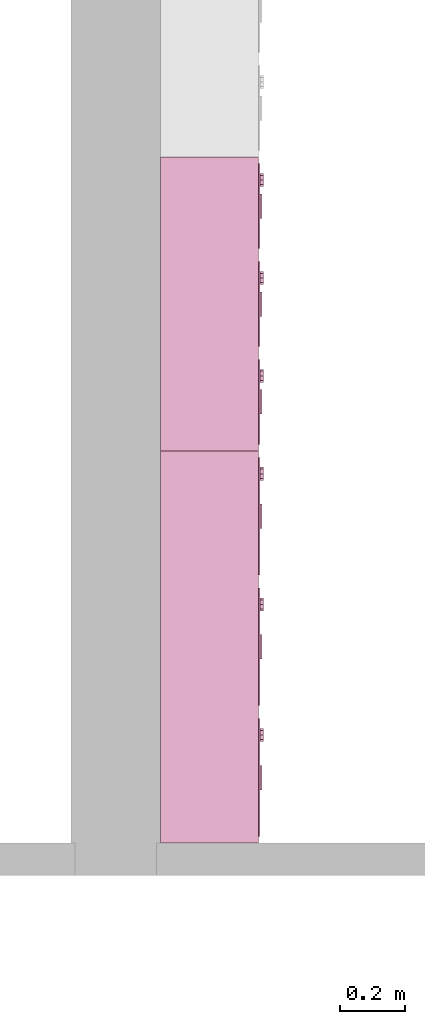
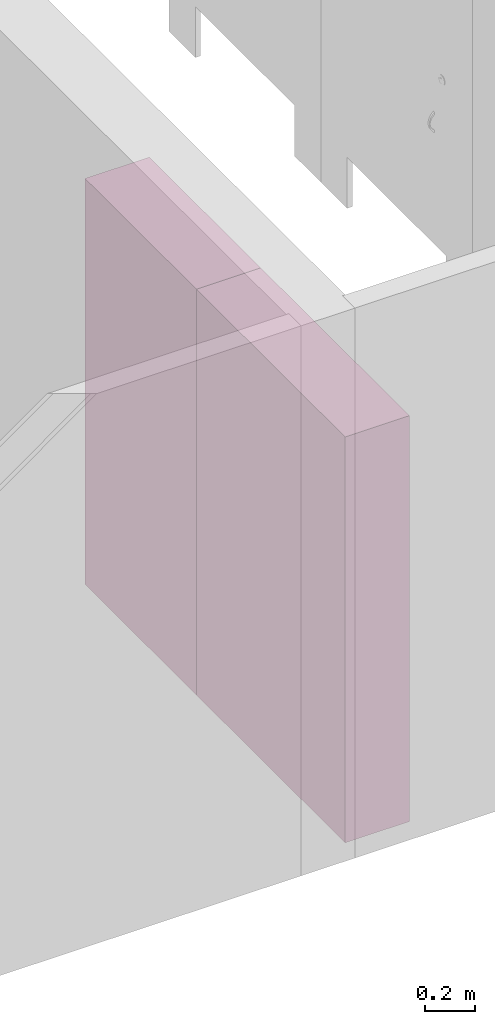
# One storey, part 16 of 22: 2 furnishings.
"""IFC2X3 building model written with IfcOpenShell, lengths in millimetres."""

from ifc_helpers import new_model, entity, si_unit, converted_unit, derived_unit, direction, frame, frame_2d, origin, origin_2d_with_axis, place, context, subcontext, project, spatial, polyline, rectangle, outline, extrude, source, transform, mapped, material, material_list, type_object, type_shapes, element, save


model = new_model("IFC2X3")

# Units and contexts
model_context = context("Model", 3, precision=0.01, world=origin(), true_north=direction((6.12303176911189e-17, 1.0)))
body_context = subcontext(model_context, "Body", "Model", "MODEL_VIEW")
ifc_project = project(units=[si_unit("LENGTHUNIT", "METRE", prefix="MILLI"), si_unit("AREAUNIT", "SQUARE_METRE"), si_unit("VOLUMEUNIT", "CUBIC_METRE"), converted_unit("PLANEANGLEUNIT", "DEGREE", entity("IfcRatioMeasure", 0.0174532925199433), si_unit("PLANEANGLEUNIT", "RADIAN"), dimensions=[0, 0, 0, 0, 0, 0, 0]), si_unit("MASSUNIT", "GRAM", prefix="KILO"), derived_unit("MASSDENSITYUNIT", [(si_unit("MASSUNIT", "GRAM", prefix="KILO"), 1), (si_unit("LENGTHUNIT", "METRE"), -3)]), si_unit("TIMEUNIT", "SECOND"), si_unit("FREQUENCYUNIT", "HERTZ"), si_unit("THERMODYNAMICTEMPERATUREUNIT", "DEGREE_CELSIUS"), derived_unit("THERMALTRANSMITTANCEUNIT", [(si_unit("MASSUNIT", "GRAM", prefix="KILO"), 1), (si_unit("THERMODYNAMICTEMPERATUREUNIT", "KELVIN"), -1), (si_unit("TIMEUNIT", "SECOND"), -3)]), derived_unit("VOLUMETRICFLOWRATEUNIT", [(si_unit("LENGTHUNIT", "METRE"), 3), (si_unit("TIMEUNIT", "SECOND"), -1)]), si_unit("ELECTRICCURRENTUNIT", "AMPERE"), si_unit("ELECTRICVOLTAGEUNIT", "VOLT"), si_unit("POWERUNIT", "WATT"), si_unit("FORCEUNIT", "NEWTON", prefix="KILO"), si_unit("ILLUMINANCEUNIT", "LUX"), si_unit("LUMINOUSFLUXUNIT", "LUMEN"), si_unit("LUMINOUSINTENSITYUNIT", "CANDELA"), derived_unit("USERDEFINED", [(si_unit("MASSUNIT", "GRAM", prefix="KILO"), -1), (si_unit("LENGTHUNIT", "METRE"), -2), (si_unit("TIMEUNIT", "SECOND"), 3), (si_unit("LUMINOUSFLUXUNIT", "LUMEN"), 1)]), derived_unit("LINEARVELOCITYUNIT", [(si_unit("LENGTHUNIT", "METRE"), 1), (si_unit("TIMEUNIT", "SECOND"), -1)]), si_unit("PRESSUREUNIT", "PASCAL"), derived_unit("USERDEFINED", [(si_unit("LENGTHUNIT", "METRE"), -2), (si_unit("MASSUNIT", "GRAM", prefix="KILO"), 1), (si_unit("TIMEUNIT", "SECOND"), -2)])], contexts=[model_context])

# Site, building, storey
site_placement = place(None, origin())
site = spatial("IfcSite", under=ifc_project, at=site_placement, Name="Default", CompositionType="ELEMENT")
building_placement = place(site_placement, origin())
building = spatial("IfcBuilding", under=site, at=building_placement, CompositionType="ELEMENT")
storey_placement = place(building_placement, frame((0.0, 0.0, -3000.0)))
storey = spatial("IfcBuildingStorey", under=building, at=storey_placement, Name="-2. Story", CompositionType="ELEMENT", Elevation=-3000.0)

# Furnishings
ifc_material_1 = material(Name="Metal - Stainless Steel")
ifc_material_2 = material(Name="Paint - Glossy White")
ifc_material_3 = material(Name="Paint - Cobalt Blue")
ifc_material_list_1 = material_list([ifc_material_1, ifc_material_2, ifc_material_3])
ifc_material_list_2 = material_list([ifc_material_1, ifc_material_2, ifc_material_3])
furniture_type_1 = type_object("IfcFurnitureType", Name="FU - 010", material=ifc_material_list_2)
shared_shape_1 = source(origin(), body_context, "Body", "SweptSolid", [
    extrude(outline(polyline([(-7.65366864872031, -18.4775906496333), (7.65366864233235, -18.4775906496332), (18.4775906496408, -7.65366864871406), (18.4775906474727, 7.65366864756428), (7.65366864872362, 18.4775906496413), (-7.65366864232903, 18.4775906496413), (-18.4775906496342, 7.65366864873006), (-18.4775906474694, -7.65366864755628), (-7.65366864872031, -18.4775906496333)])), frame((108074.18836, 76033.9483369, -1400.0), z_axis=(1.0, 0.0, 0.0), x_axis=(0.0, 0.382683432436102, -0.923879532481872)), (0.0, 0.0, 1.0), 10.0000000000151),
    extrude(rectangle(XDim=4.99999999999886, YDim=75.0000000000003, at=frame_2d((-8.66284821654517e-12, 0.0), x_axis=(1.0, 0.0))), frame((108076.68836, 75953.9483369, -1000.0)), (0.0, 0.0, 1.0), 50.0),
    extrude(rectangle(XDim=9.99999999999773, YDim=260.000000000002, at=frame_2d((-1.73256964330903e-11, -4.32009983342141e-12), x_axis=(1.0, 0.0))), frame((108069.18836, 75953.9483369, -1880.0), z_axis=(0.0, 0.0, 1.0), x_axis=(-1.0, 0.0, 0.0)), (0.0, 0.0, 1.0), 960.0),
    extrude(rectangle(XDim=19.9999999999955, YDim=300.000000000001, at=origin_2d_with_axis()), frame((107779.18836, 75953.9483369, -1900.0)), (0.0, 0.0, 1.0), 1000.0),
    extrude(outline(polyline([(-150.0, -500.0), (150.0, -500.0), (150.0, 500.0), (-150.0, 500.0), (-150.0, -500.0)]), holes=[polyline([(130.0, 480.0), (130.0, -480.0), (-130.0, -480.0), (-130.0, 480.0), (130.0, 480.0)])]), frame((107789.18836, 75953.9483369, -1400.0), z_axis=(1.0, 0.0, 0.0), x_axis=(0.0, 1.0, 0.0)), (0.0, 0.0, 1.0), 280.000000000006),
    extrude(outline(polyline([(-7.65366864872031, -18.4775906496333), (7.65366864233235, -18.4775906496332), (18.4775906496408, -7.65366864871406), (18.4775906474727, 7.65366864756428), (7.65366864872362, 18.4775906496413), (-7.65366864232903, 18.4775906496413), (-18.4775906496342, 7.65366864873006), (-18.4775906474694, -7.65366864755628), (-7.65366864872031, -18.4775906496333)])), frame((108074.18836, 76333.9483369, -1400.0), z_axis=(1.0, 0.0, 0.0), x_axis=(0.0, 0.382683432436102, -0.923879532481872)), (0.0, 0.0, 1.0), 10.0000000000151),
    extrude(rectangle(XDim=4.99999999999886, YDim=75.0000000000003, at=frame_2d((-8.66284821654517e-12, 0.0), x_axis=(1.0, 0.0))), frame((108076.68836, 76253.9483369, -1000.0)), (0.0, 0.0, 1.0), 50.0),
    extrude(rectangle(XDim=9.99999999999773, YDim=260.000000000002, at=frame_2d((-1.73256964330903e-11, -4.32009983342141e-12), x_axis=(1.0, 0.0))), frame((108069.18836, 76253.9483369, -1880.0), z_axis=(0.0, 0.0, 1.0), x_axis=(-1.0, 0.0, 0.0)), (0.0, 0.0, 1.0), 960.0),
    extrude(rectangle(XDim=19.9999999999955, YDim=300.000000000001, at=origin_2d_with_axis()), frame((107779.18836, 76253.9483369, -1900.0)), (0.0, 0.0, 1.0), 1000.0),
    extrude(outline(polyline([(-150.0, -500.0), (150.0, -500.0), (150.0, 500.0), (-150.0, 500.0), (-150.0, -500.0)]), holes=[polyline([(130.0, 480.0), (130.0, -480.0), (-130.0, -480.0), (-130.0, 480.0), (130.0, 480.0)])]), frame((107789.18836, 76253.9483369, -1400.0), z_axis=(1.0, 0.0, 0.0), x_axis=(0.0, 1.0, 0.0)), (0.0, 0.0, 1.0), 280.000000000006),
    extrude(outline(polyline([(-7.65366864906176, -18.4775906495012), (7.65366864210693, -18.4775906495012), (18.4775906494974, -7.65366864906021), (18.4775906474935, 7.65366864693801), (7.65366864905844, 18.4775906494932), (-7.65366864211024, 18.4775906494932), (-18.4775906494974, 7.65366864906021), (-18.4775906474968, -7.65366864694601), (-7.65366864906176, -18.4775906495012)])), frame((108074.18836, 76633.9483369, -1400.0), z_axis=(1.0, 0.0, 0.0), x_axis=(0.0, 0.382683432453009, -0.923879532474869)), (0.0, 0.0, 1.0), 10.0000000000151),
    extrude(rectangle(XDim=4.99999999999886, YDim=75.0000000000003, at=frame_2d((-8.66284821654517e-12, 0.0), x_axis=(1.0, 0.0))), frame((108076.68836, 76553.9483369, -1000.0)), (0.0, 0.0, 1.0), 50.0),
    extrude(rectangle(XDim=9.99999999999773, YDim=260.000000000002, at=frame_2d((-1.73256964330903e-11, -4.32009983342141e-12), x_axis=(1.0, 0.0))), frame((108069.18836, 76553.9483369, -1880.0), z_axis=(0.0, 0.0, 1.0), x_axis=(-1.0, 0.0, 0.0)), (0.0, 0.0, 1.0), 960.0),
    extrude(rectangle(XDim=19.9999999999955, YDim=299.999999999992, at=frame_2d((0.0, -4.32009983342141e-12), x_axis=(1.0, 0.0))), frame((107779.18836, 76553.9483369, -1900.0)), (0.0, 0.0, 1.0), 1000.0),
    extrude(outline(polyline([(-150.0, -500.0), (150.0, -500.0), (150.0, 500.0), (-150.0, 500.0), (-150.0, -500.0)]), holes=[polyline([(130.0, 480.0), (130.0, -480.0), (-130.0, -480.0), (-130.0, 480.0), (130.0, 480.0)])]), frame((107789.18836, 76553.9483369, -1400.0), z_axis=(1.0, 0.0, 0.0), x_axis=(0.0, 1.0, 0.0)), (0.0, 0.0, 1.0), 280.000000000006),
    extrude(outline(polyline([(-7.6536686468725, -18.4775906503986), (7.65366864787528, -18.4775906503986), (18.4775906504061, -7.65366864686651), (18.4775906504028, 7.65366864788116), (7.65366864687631, 18.4775906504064), (-7.65366864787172, 18.4775906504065), (-18.4775906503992, 7.65366864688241), (-18.4775906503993, -7.65366864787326), (-7.6536686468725, -18.4775906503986)])), frame((108074.18836, 76033.9483369, -2400.0), z_axis=(1.0, 0.0, 0.0), x_axis=(0.0, 0.382683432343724, -0.923879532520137)), (0.0, 0.0, 1.0), 10.0000000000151),
    extrude(rectangle(XDim=4.99999999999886, YDim=75.0000000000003, at=frame_2d((-8.66284821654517e-12, 0.0), x_axis=(1.0, 0.0))), frame((108076.68836, 75953.9483369, -2000.0)), (0.0, 0.0, 1.0), 50.0),
    extrude(rectangle(XDim=9.99999999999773, YDim=260.000000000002, at=frame_2d((-1.73256964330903e-11, -4.32009983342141e-12), x_axis=(1.0, 0.0))), frame((108069.18836, 75953.9483369, -2880.0), z_axis=(0.0, 0.0, 1.0), x_axis=(-1.0, 0.0, 0.0)), (0.0, 0.0, 1.0), 960.0),
    extrude(rectangle(XDim=19.9999999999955, YDim=300.000000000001, at=origin_2d_with_axis()), frame((107779.18836, 75953.9483369, -2900.0)), (0.0, 0.0, 1.0), 1000.0),
    extrude(outline(polyline([(-150.0, -500.0), (150.0, -500.0), (150.0, 500.0), (-150.0, 500.0), (-150.0, -500.0)]), holes=[polyline([(130.0, 480.0), (130.0, -480.0), (-130.0, -480.0), (-130.0, 480.0), (130.0, 480.0)])]), frame((107789.18836, 75953.9483369, -2400.0), z_axis=(1.0, 0.0, 0.0), x_axis=(0.0, 1.0, 0.0)), (0.0, 0.0, 1.0), 280.000000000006),
    extrude(outline(polyline([(-7.6536686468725, -18.4775906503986), (7.65366864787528, -18.4775906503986), (18.4775906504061, -7.65366864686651), (18.4775906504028, 7.65366864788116), (7.65366864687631, 18.4775906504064), (-7.65366864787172, 18.4775906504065), (-18.4775906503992, 7.65366864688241), (-18.4775906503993, -7.65366864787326), (-7.6536686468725, -18.4775906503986)])), frame((108074.18836, 76333.9483369, -2400.0), z_axis=(1.0, 0.0, 0.0), x_axis=(0.0, 0.382683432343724, -0.923879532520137)), (0.0, 0.0, 1.0), 10.0000000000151),
    extrude(rectangle(XDim=4.99999999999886, YDim=75.0000000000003, at=frame_2d((-8.66284821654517e-12, 0.0), x_axis=(1.0, 0.0))), frame((108076.68836, 76253.9483369, -2000.0)), (0.0, 0.0, 1.0), 50.0),
    extrude(rectangle(XDim=9.99999999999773, YDim=260.000000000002, at=frame_2d((-1.73256964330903e-11, -4.32009983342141e-12), x_axis=(1.0, 0.0))), frame((108069.18836, 76253.9483369, -2880.0), z_axis=(0.0, 0.0, 1.0), x_axis=(-1.0, 0.0, 0.0)), (0.0, 0.0, 1.0), 960.0),
    extrude(rectangle(XDim=19.9999999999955, YDim=300.000000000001, at=origin_2d_with_axis()), frame((107779.18836, 76253.9483369, -2900.0)), (0.0, 0.0, 1.0), 1000.0),
    extrude(outline(polyline([(-150.0, -500.0), (150.0, -500.0), (150.0, 500.0), (-150.0, 500.0), (-150.0, -500.0)]), holes=[polyline([(130.0, 480.0), (130.0, -480.0), (-130.0, -480.0), (-130.0, 480.0), (130.0, 480.0)])]), frame((107789.18836, 76253.9483369, -2400.0), z_axis=(1.0, 0.0, 0.0), x_axis=(0.0, 1.0, 0.0)), (0.0, 0.0, 1.0), 280.000000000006),
    extrude(outline(polyline([(-7.65366864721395, -18.4775906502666), (7.65366864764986, -18.4775906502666), (18.4775906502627, -7.65366864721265), (18.4775906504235, 7.6536686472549), (7.65366864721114, 18.4775906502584), (-7.65366864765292, 18.4775906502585), (-18.4775906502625, 7.65366864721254), (-18.4775906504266, -7.653668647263), (-7.65366864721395, -18.4775906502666)])), frame((108074.18836, 76633.9483369, -2400.0), z_axis=(1.0, 0.0, 0.0), x_axis=(0.0, 0.382683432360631, -0.923879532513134)), (0.0, 0.0, 1.0), 10.0000000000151),
    extrude(rectangle(XDim=4.99999999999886, YDim=75.0000000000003, at=frame_2d((-8.66284821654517e-12, 0.0), x_axis=(1.0, 0.0))), frame((108076.68836, 76553.9483369, -2000.0)), (0.0, 0.0, 1.0), 50.0),
    extrude(rectangle(XDim=9.99999999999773, YDim=260.000000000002, at=frame_2d((-1.73256964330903e-11, -4.32009983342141e-12), x_axis=(1.0, 0.0))), frame((108069.18836, 76553.9483369, -2880.0), z_axis=(0.0, 0.0, 1.0), x_axis=(-1.0, 0.0, 0.0)), (0.0, 0.0, 1.0), 960.0),
    extrude(rectangle(XDim=19.9999999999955, YDim=299.999999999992, at=frame_2d((0.0, -4.32009983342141e-12), x_axis=(1.0, 0.0))), frame((107779.18836, 76553.9483369, -2900.0)), (0.0, 0.0, 1.0), 1000.0),
    extrude(outline(polyline([(-150.0, -500.0), (150.0, -500.0), (150.0, 500.0), (-150.0, 500.0), (-150.0, -500.0)]), holes=[polyline([(130.0, 480.0), (130.0, -480.0), (-130.0, -480.0), (-130.0, 480.0), (130.0, 480.0)])]), frame((107789.18836, 76553.9483369, -2400.0), z_axis=(1.0, 0.0, 0.0), x_axis=(0.0, 1.0, 0.0)), (0.0, 0.0, 1.0), 280.000000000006),
])
type_shapes(furniture_type_1, [shared_shape_1])
furnishing_1_placement = place(storey_placement, frame((0.0, 0.0, 3000.0)))
element("IfcFurnishingElement", 1, at=furnishing_1_placement, inside=storey, type_object=furniture_type_1, material=ifc_material_list_1, Name="FU - 010 1592197:FU - 010 1592197", ObjectType="FU - 010 1592197:FU - 010 1592197", context=body_context, shape_type="MappedRepresentation", body=[
    mapped(shared_shape_1, transform((0.0, 0.0, 0.0), scale=1.0)),
])
ifc_material_list_3 = material_list([ifc_material_1, ifc_material_2, ifc_material_3])
ifc_material_list_4 = material_list([ifc_material_1, ifc_material_2, ifc_material_3])
furniture_type_2 = type_object("IfcFurnitureType", Name="FU - 010", material=ifc_material_list_4)
shared_shape_2 = source(origin(), body_context, "Body", "SweptSolid", [
    extrude(outline(polyline([(-7.65366864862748, -18.4775906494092), (7.65366864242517, -18.4775906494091), (18.4775906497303, -7.65366864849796), (18.477590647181, 7.65366864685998), (7.65366864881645, 18.4775906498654), (-7.65366864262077, 18.4775906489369), (-18.4775906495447, 7.65366864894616), (-18.4775906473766, -7.65366864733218), (-7.65366864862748, -18.4775906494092)])), frame((108074.18836, 74933.4207132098, -1400.0), z_axis=(1.0, 0.0, 0.0), x_axis=(0.0, 0.382683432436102, -0.923879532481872)), (0.0, 0.0, 1.0), 10.0000000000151),
    extrude(rectangle(XDim=4.99999999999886, YDim=74.9999999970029, at=frame_2d((-8.66284821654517e-12, 0.0), x_axis=(1.0, 0.0))), frame((108076.68836, 74803.2888072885, -1000.0)), (0.0, 0.0, 1.0), 50.0),
    extrude(rectangle(XDim=9.99999999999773, YDim=360.263811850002, at=frame_2d((-1.73256964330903e-11, 0.0), x_axis=(1.0, 0.0))), frame((108069.18836, 74803.288807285, -1880.0), z_axis=(0.0, 0.0, 1.0), x_axis=(-1.0, 0.0, 0.0)), (0.0, 0.0, 1.0), 960.0),
    extrude(rectangle(XDim=19.9999999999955, YDim=400.263811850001, at=frame_2d((0.0, 4.33431068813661e-12), x_axis=(1.0, 0.0))), frame((107779.18836, 74803.288807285, -1900.0)), (0.0, 0.0, 1.0), 1000.0),
    extrude(outline(polyline([(-200.131905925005, -500.0), (200.131905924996, -500.0), (200.131905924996, 500.0), (-200.131905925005, 500.0), (-200.131905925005, -500.0)]), holes=[polyline([(180.131905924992, 480.0), (180.131905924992, -480.0), (-180.13190592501, -480.0), (-180.13190592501, 480.0), (180.131905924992, 480.0)])]), frame((107789.18836, 74803.288807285, -1400.0), z_axis=(1.0, 0.0, 0.0), x_axis=(0.0, 1.0, 0.0)), (0.0, 0.0, 1.0), 280.000000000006),
    extrude(outline(polyline([(-7.65366864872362, -18.4775906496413), (7.65366864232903, -18.4775906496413), (18.4775906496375, -7.65366864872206), (18.4775906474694, 7.65366864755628), (7.65366864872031, 18.4775906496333), (-7.65366864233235, 18.4775906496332), (-18.4775906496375, 7.65366864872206), (-18.4775906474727, -7.65366864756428), (-7.65366864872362, -18.4775906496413)])), frame((108074.18836, 75333.684525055, -1400.0), z_axis=(1.0, 0.0, 0.0), x_axis=(0.0, 0.382683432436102, -0.923879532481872)), (0.0, 0.0, 1.0), 10.0000000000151),
    extrude(rectangle(XDim=4.99999999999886, YDim=75.0000000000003, at=frame_2d((-8.66284821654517e-12, 0.0), x_axis=(1.0, 0.0))), frame((108076.68836, 75203.552619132, -1000.0)), (0.0, 0.0, 1.0), 50.0),
    extrude(rectangle(XDim=9.99999999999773, YDim=360.263811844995, at=frame_2d((-1.73256964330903e-11, 0.0), x_axis=(1.0, 0.0))), frame((108069.18836, 75203.5526191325, -1880.0), z_axis=(0.0, 0.0, 1.0), x_axis=(-1.0, 0.0, 0.0)), (0.0, 0.0, 1.0), 960.0),
    extrude(rectangle(XDim=19.9999999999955, YDim=400.263811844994, at=frame_2d((0.0, -4.33431068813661e-12), x_axis=(1.0, 0.0))), frame((107779.18836, 75203.5526191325, -1900.0)), (0.0, 0.0, 1.0), 1000.0),
    extrude(outline(polyline([(-200.131905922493, -500.0), (200.131905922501, -500.0), (200.131905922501, 500.0), (-200.131905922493, 500.0), (-200.131905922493, -500.0)]), holes=[polyline([(180.131905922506, 480.0), (180.131905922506, -480.0), (-180.131905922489, -480.0), (-180.131905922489, 480.0), (180.131905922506, 480.0)])]), frame((107789.18836, 75203.5526191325, -1400.0), z_axis=(1.0, 0.0, 0.0), x_axis=(0.0, 1.0, 0.0)), (0.0, 0.0, 1.0), 280.000000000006),
    extrude(outline(polyline([(-7.65366864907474, -18.4775906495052), (7.65366864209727, -18.4775906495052), (18.4775906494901, -7.65366864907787), (18.4775906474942, 7.65366864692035), (7.65366864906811, 18.4775906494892), (-7.6536686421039, 18.4775906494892), (-18.4775906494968, 7.65366864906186), (-18.4775906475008, -7.65366864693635), (-7.65366864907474, -18.4775906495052)])), frame((108074.18836, 75733.9483369, -1400.0), z_axis=(1.0, 0.0, 0.0), x_axis=(0.0, 0.382683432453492, -0.923879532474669)), (0.0, 0.0, 1.0), 10.0000000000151),
    extrude(rectangle(XDim=4.99999999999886, YDim=75.0000000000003, at=frame_2d((-8.66284821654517e-12, 0.0), x_axis=(1.0, 0.0))), frame((108076.68836, 75603.816430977, -1000.0)), (0.0, 0.0, 1.0), 50.0),
    extrude(rectangle(XDim=9.99999999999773, YDim=360.263811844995, at=frame_2d((-1.73256964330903e-11, 0.0), x_axis=(1.0, 0.0))), frame((108069.18836, 75603.8164309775, -1880.0), z_axis=(0.0, 0.0, 1.0), x_axis=(-1.0, 0.0, 0.0)), (0.0, 0.0, 1.0), 960.0),
    extrude(rectangle(XDim=19.9999999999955, YDim=400.263811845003, at=origin_2d_with_axis()), frame((107779.18836, 75603.8164309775, -1900.0)), (0.0, 0.0, 1.0), 1000.0),
    extrude(outline(polyline([(-200.131905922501, -500.0), (200.131905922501, -500.0), (200.131905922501, 500.0), (-200.131905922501, 500.0), (-200.131905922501, -500.0)]), holes=[polyline([(180.131905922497, 480.0), (180.131905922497, -480.0), (-180.131905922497, -480.0), (-180.131905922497, 480.0), (180.131905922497, 480.0)])]), frame((107789.18836, 75603.8164309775, -1400.0), z_axis=(1.0, 0.0, 0.0), x_axis=(0.0, 1.0, 0.0)), (0.0, 0.0, 1.0), 280.000000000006),
    extrude(outline(polyline([(-7.65366864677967, -18.4775906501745), (7.65366864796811, -18.4775906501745), (18.4775906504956, -7.65366864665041), (18.4775906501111, 7.65366864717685), (7.65366864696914, 18.4775906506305), (-7.65366864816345, 18.4775906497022), (-18.4775906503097, 7.6536686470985), (-18.4775906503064, -7.65366864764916), (-7.65366864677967, -18.4775906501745)])), frame((108074.18836, 74933.4207132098, -2400.0), z_axis=(1.0, 0.0, 0.0), x_axis=(0.0, 0.382683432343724, -0.923879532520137)), (0.0, 0.0, 1.0), 10.0000000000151),
    extrude(rectangle(XDim=4.99999999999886, YDim=74.9999999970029, at=frame_2d((-8.66284821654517e-12, 0.0), x_axis=(1.0, 0.0))), frame((108076.68836, 74803.2888072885, -2000.0)), (0.0, 0.0, 1.0), 50.0),
    extrude(rectangle(XDim=9.99999999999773, YDim=360.263811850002, at=frame_2d((-1.73256964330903e-11, 0.0), x_axis=(1.0, 0.0))), frame((108069.18836, 74803.288807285, -2880.0), z_axis=(0.0, 0.0, 1.0), x_axis=(-1.0, 0.0, 0.0)), (0.0, 0.0, 1.0), 960.0),
    extrude(rectangle(XDim=19.9999999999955, YDim=400.263811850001, at=frame_2d((0.0, 4.33431068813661e-12), x_axis=(1.0, 0.0))), frame((107779.18836, 74803.288807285, -2900.0)), (0.0, 0.0, 1.0), 1000.0),
    extrude(outline(polyline([(-200.131905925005, -500.0), (200.131905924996, -500.0), (200.131905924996, 500.0), (-200.131905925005, 500.0), (-200.131905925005, -500.0)]), holes=[polyline([(180.131905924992, 480.0), (180.131905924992, -480.0), (-180.13190592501, -480.0), (-180.13190592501, 480.0), (180.131905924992, 480.0)])]), frame((107789.18836, 74803.288807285, -2400.0), z_axis=(1.0, 0.0, 0.0), x_axis=(0.0, 1.0, 0.0)), (0.0, 0.0, 1.0), 280.000000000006),
    extrude(outline(polyline([(-7.65366864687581, -18.4775906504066), (7.65366864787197, -18.4775906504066), (18.4775906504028, -7.65366864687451), (18.4775906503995, 7.65366864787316), (7.653668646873, 18.4775906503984), (-7.65366864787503, 18.4775906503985), (-18.4775906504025, 7.65366864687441), (-18.4775906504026, -7.65366864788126), (-7.65366864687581, -18.4775906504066)])), frame((108074.18836, 75333.684525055, -2400.0), z_axis=(1.0, 0.0, 0.0), x_axis=(0.0, 0.382683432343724, -0.923879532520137)), (0.0, 0.0, 1.0), 10.0000000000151),
    extrude(rectangle(XDim=4.99999999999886, YDim=75.0000000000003, at=frame_2d((-8.66284821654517e-12, 0.0), x_axis=(1.0, 0.0))), frame((108076.68836, 75203.552619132, -2000.0)), (0.0, 0.0, 1.0), 50.0),
    extrude(rectangle(XDim=9.99999999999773, YDim=360.263811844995, at=frame_2d((-1.73256964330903e-11, 0.0), x_axis=(1.0, 0.0))), frame((108069.18836, 75203.5526191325, -2880.0), z_axis=(0.0, 0.0, 1.0), x_axis=(-1.0, 0.0, 0.0)), (0.0, 0.0, 1.0), 960.0),
    extrude(rectangle(XDim=19.9999999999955, YDim=400.263811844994, at=frame_2d((0.0, -4.33431068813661e-12), x_axis=(1.0, 0.0))), frame((107779.18836, 75203.5526191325, -2900.0)), (0.0, 0.0, 1.0), 1000.0),
    extrude(outline(polyline([(-200.131905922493, -500.0), (200.131905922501, -500.0), (200.131905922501, 500.0), (-200.131905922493, 500.0), (-200.131905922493, -500.0)]), holes=[polyline([(180.131905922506, 480.0), (180.131905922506, -480.0), (-180.131905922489, -480.0), (-180.131905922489, 480.0), (180.131905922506, 480.0)])]), frame((107789.18836, 75203.5526191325, -2400.0), z_axis=(1.0, 0.0, 0.0), x_axis=(0.0, 1.0, 0.0)), (0.0, 0.0, 1.0), 280.000000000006),
    extrude(outline(polyline([(-7.65366864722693, -18.4775906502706), (7.6536686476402, -18.4775906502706), (18.4775906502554, -7.6536686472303), (18.4775906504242, 7.65366864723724), (7.6536686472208, 18.4775906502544), (-7.65366864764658, 18.4775906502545), (-18.4775906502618, 7.65366864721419), (-18.4775906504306, -7.65366864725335), (-7.65366864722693, -18.4775906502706)])), frame((108074.18836, 75733.9483369, -2400.0), z_axis=(1.0, 0.0, 0.0), x_axis=(0.0, 0.382683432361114, -0.923879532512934)), (0.0, 0.0, 1.0), 10.000000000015),
    extrude(rectangle(XDim=4.99999999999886, YDim=75.0000000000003, at=frame_2d((-8.66284821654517e-12, 0.0), x_axis=(1.0, 0.0))), frame((108076.68836, 75603.816430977, -2000.0)), (0.0, 0.0, 1.0), 50.0),
    extrude(rectangle(XDim=9.99999999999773, YDim=360.263811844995, at=frame_2d((-1.73256964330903e-11, 0.0), x_axis=(1.0, 0.0))), frame((108069.18836, 75603.8164309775, -2880.0), z_axis=(0.0, 0.0, 1.0), x_axis=(-1.0, 0.0, 0.0)), (0.0, 0.0, 1.0), 960.0),
    extrude(rectangle(XDim=19.9999999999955, YDim=400.263811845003, at=origin_2d_with_axis()), frame((107779.18836, 75603.8164309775, -2900.0)), (0.0, 0.0, 1.0), 1000.0),
    extrude(outline(polyline([(-200.131905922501, -500.0), (200.131905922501, -500.0), (200.131905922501, 500.0), (-200.131905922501, 500.0), (-200.131905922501, -500.0)]), holes=[polyline([(180.131905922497, 480.0), (180.131905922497, -480.0), (-180.131905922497, -480.0), (-180.131905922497, 480.0), (180.131905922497, 480.0)])]), frame((107789.18836, 75603.8164309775, -2400.0), z_axis=(1.0, 0.0, 0.0), x_axis=(0.0, 1.0, 0.0)), (0.0, 0.0, 1.0), 280.000000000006),
])
type_shapes(furniture_type_2, [shared_shape_2])
furnishing_2_placement = place(storey_placement, frame((0.0, 0.0, 3000.0)))
element("IfcFurnishingElement", 2, at=furnishing_2_placement, inside=storey, type_object=furniture_type_2, material=ifc_material_list_3, Name="FU - 010 1594410:FU - 010 1594410", ObjectType="FU - 010 1594410:FU - 010 1594410", context=body_context, shape_type="MappedRepresentation", body=[
    mapped(shared_shape_2, transform((0.0, 0.0, 0.0), scale=1.0)),
])

save(model, "model.ifc")
